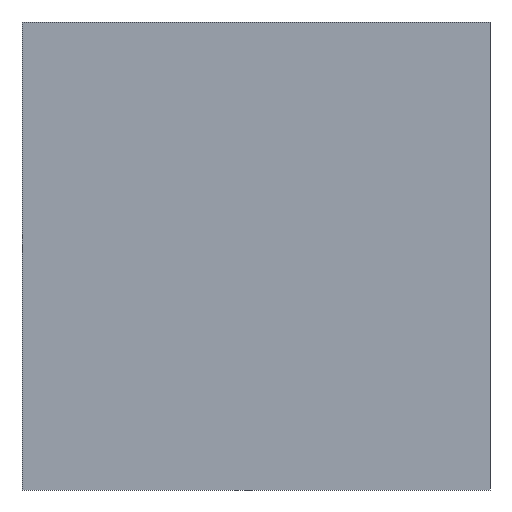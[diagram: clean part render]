
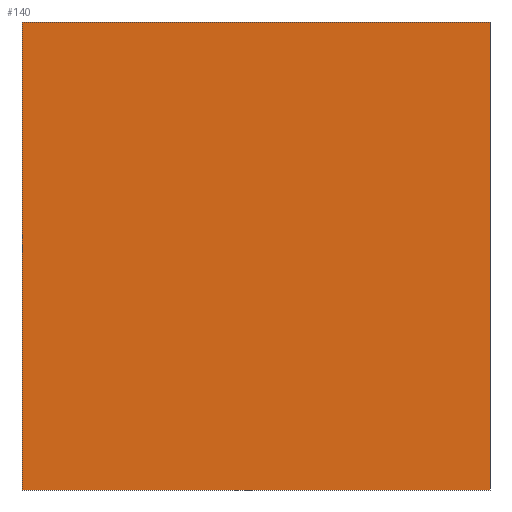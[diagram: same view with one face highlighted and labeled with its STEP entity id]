
A CAD part, front view. The second image highlights one B-rep face of the part: STEP entity #140.
In plain terms, the highlighted planar face has unit normal (0, -1, 0).
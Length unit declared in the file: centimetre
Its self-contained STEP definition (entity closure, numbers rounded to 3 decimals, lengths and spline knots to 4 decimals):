
#10 = CARTESIAN_POINT ( 'NONE',  ( 1000., 0., 0. ) ) ;
#25 = VERTEX_POINT ( 'NONE', #328 ) ;
#30 = CARTESIAN_POINT ( 'NONE',  ( 0., 0., 1000. ) ) ;
#78 = LINE ( 'NONE', #30, #303 ) ;
#79 = EDGE_CURVE ( 'NONE', #569, #321, #78, .T. ) ;
#86 = ORIENTED_EDGE ( 'NONE', *, *, #486, .T. ) ;
#101 = ORIENTED_EDGE ( 'NONE', *, *, #343, .F. ) ;
#107 = AXIS2_PLACEMENT_3D ( 'NONE', #257, #510, #380 ) ;
#131 = ORIENTED_EDGE ( 'NONE', *, *, #254, .F. ) ;
#140 = ADVANCED_FACE ( 'NONE', ( #168 ), #433, .F. ) ;
#168 = FACE_OUTER_BOUND ( 'NONE', #214, .T. ) ;
#174 = CARTESIAN_POINT ( 'NONE',  ( 0., 0., 1000. ) ) ;
#182 = CARTESIAN_POINT ( 'NONE',  ( 0., 0., 0. ) ) ;
#214 = EDGE_LOOP ( 'NONE', ( #86, #101, #131, #336 ) ) ;
#228 = CARTESIAN_POINT ( 'NONE',  ( 0., 0., 0. ) ) ;
#254 = EDGE_CURVE ( 'NONE', #569, #25, #398, .T. ) ;
#257 = CARTESIAN_POINT ( 'NONE',  ( 0., 0., 1000. ) ) ;
#269 = DIRECTION ( 'NONE',  ( 1., 0., 0. ) ) ;
#303 = VECTOR ( 'NONE', #518, 100. ) ;
#321 = VERTEX_POINT ( 'NONE', #228 ) ;
#328 = CARTESIAN_POINT ( 'NONE',  ( 1000., 0., 1000. ) ) ;
#336 = ORIENTED_EDGE ( 'NONE', *, *, #79, .T. ) ;
#343 = EDGE_CURVE ( 'NONE', #25, #397, #568, .T. ) ;
#353 = DIRECTION ( 'NONE',  ( 1., 0., 0. ) ) ;
#366 = CARTESIAN_POINT ( 'NONE',  ( 0., 0., 1000. ) ) ;
#380 = DIRECTION ( 'NONE',  ( 0., 0., 1. ) ) ;
#397 = VERTEX_POINT ( 'NONE', #10 ) ;
#398 = LINE ( 'NONE', #174, #407 ) ;
#399 = LINE ( 'NONE', #182, #453 ) ;
#405 = DIRECTION ( 'NONE',  ( 0., 0., -1. ) ) ;
#407 = VECTOR ( 'NONE', #269, 100. ) ;
#415 = VECTOR ( 'NONE', #405, 100. ) ;
#433 = PLANE ( 'NONE',  #107 ) ;
#453 = VECTOR ( 'NONE', #353, 100. ) ;
#486 = EDGE_CURVE ( 'NONE', #321, #397, #399, .T. ) ;
#489 = CARTESIAN_POINT ( 'NONE',  ( 1000., 0., 1000. ) ) ;
#510 = DIRECTION ( 'NONE',  ( 0., 1., 0. ) ) ;
#518 = DIRECTION ( 'NONE',  ( 0., 0., -1. ) ) ;
#568 = LINE ( 'NONE', #489, #415 ) ;
#569 = VERTEX_POINT ( 'NONE', #366 ) ;
